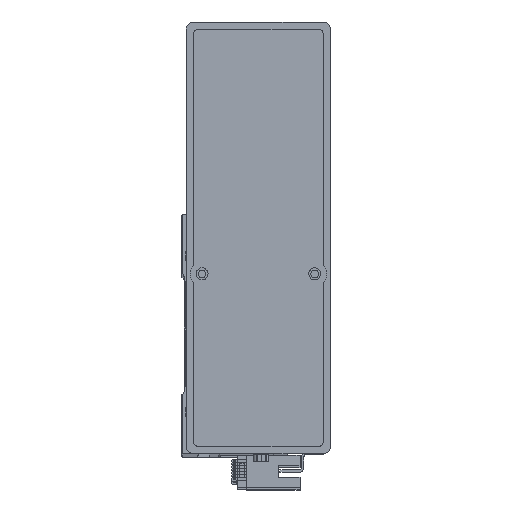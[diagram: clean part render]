
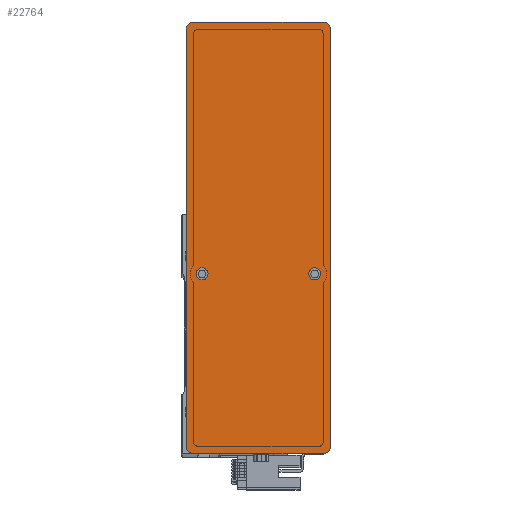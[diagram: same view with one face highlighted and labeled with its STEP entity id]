
A CAD part, top view. The second image highlights one B-rep face of the part: STEP entity #22764.
In plain terms, the highlighted planar face has unit normal (0, 0, 1) as drawn and (0, 0, -1) by its records, which use the part's own axes.
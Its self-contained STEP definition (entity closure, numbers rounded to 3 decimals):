
#24 = CARTESIAN_POINT ( 'NONE',  ( -90., -30., 0. ) ) ;
#186 = CARTESIAN_POINT ( 'NONE',  ( 87., -30., 0. ) ) ;
#935 = CARTESIAN_POINT ( 'NONE',  ( -15., -23.5, 0. ) ) ;
#988 = VECTOR ( 'NONE', #12997, 1000. ) ;
#1048 = VERTEX_POINT ( 'NONE', #7430 ) ;
#1494 = AXIS2_PLACEMENT_3D ( 'NONE', #935, #26318, #4554 ) ;
#1651 = EDGE_LOOP ( 'NONE', ( #38321, #25437 ) ) ;
#2079 = CIRCLE ( 'NONE', #8650, 3. ) ;
#3232 = VERTEX_POINT ( 'NONE', #30065 ) ;
#3661 = DIRECTION ( 'NONE',  ( 0., -1., 0. ) ) ;
#4140 = ORIENTED_EDGE ( 'NONE', *, *, #14459, .T. ) ;
#4554 = DIRECTION ( 'NONE',  ( -1., 0., 0. ) ) ;
#4740 = EDGE_CURVE ( 'NONE', #35232, #5352, #20351, .T. ) ;
#5243 = CARTESIAN_POINT ( 'NONE',  ( -87., 30., 0. ) ) ;
#5352 = VERTEX_POINT ( 'NONE', #37997 ) ;
#5826 = VERTEX_POINT ( 'NONE', #5243 ) ;
#6421 = ORIENTED_EDGE ( 'NONE', *, *, #4740, .F. ) ;
#6950 = AXIS2_PLACEMENT_3D ( 'NONE', #19739, #34721, #13109 ) ;
#7430 = CARTESIAN_POINT ( 'NONE',  ( -17.5, -23.5, 0. ) ) ;
#7522 = EDGE_LOOP ( 'NONE', ( #6421, #38053, #16698, #4140, #29932, #26814, #9822, #26038 ) ) ;
#7708 = FACE_BOUND ( 'NONE', #1651, .T. ) ;
#8650 = AXIS2_PLACEMENT_3D ( 'NONE', #21681, #46765, #25303 ) ;
#9822 = ORIENTED_EDGE ( 'NONE', *, *, #25087, .F. ) ;
#11628 = LINE ( 'NONE', #34910, #29731 ) ;
#12278 = DIRECTION ( 'NONE',  ( -1., 0., 0. ) ) ;
#12685 = EDGE_CURVE ( 'NONE', #38565, #27139, #22065, .T. ) ;
#12997 = DIRECTION ( 'NONE',  ( 0., 1., 0. ) ) ;
#13109 = DIRECTION ( 'NONE',  ( 1., 0., 0. ) ) ;
#13871 = DIRECTION ( 'NONE',  ( 0., 0., -1. ) ) ;
#14050 = AXIS2_PLACEMENT_3D ( 'NONE', #37588, #16080, #41243 ) ;
#14459 = EDGE_CURVE ( 'NONE', #36634, #3232, #46694, .T. ) ;
#14667 = AXIS2_PLACEMENT_3D ( 'NONE', #36332, #14773, #24708 ) ;
#14773 = DIRECTION ( 'NONE',  ( 0., 0., -1. ) ) ;
#15700 = EDGE_CURVE ( 'NONE', #28159, #3232, #25709, .T. ) ;
#15899 = CARTESIAN_POINT ( 'NONE',  ( 87., 30., 0. ) ) ;
#16080 = DIRECTION ( 'NONE',  ( 0., 0., -1. ) ) ;
#16698 = ORIENTED_EDGE ( 'NONE', *, *, #28212, .F. ) ;
#17821 = CIRCLE ( 'NONE', #14050, 3. ) ;
#17832 = CIRCLE ( 'NONE', #14667, 2.5 ) ;
#18443 = EDGE_CURVE ( 'NONE', #46655, #5352, #17821, .T. ) ;
#18759 = EDGE_CURVE ( 'NONE', #41567, #1048, #17832, .T. ) ;
#18915 = DIRECTION ( 'NONE',  ( 0., 0., -1. ) ) ;
#19522 = DIRECTION ( 'NONE',  ( 0., 0., -1. ) ) ;
#19739 = CARTESIAN_POINT ( 'NONE',  ( 0., 0., 0. ) ) ;
#20351 = LINE ( 'NONE', #34608, #988 ) ;
#20977 = EDGE_CURVE ( 'NONE', #35232, #31753, #2079, .T. ) ;
#21031 = CARTESIAN_POINT ( 'NONE',  ( -15., 23.5, 0. ) ) ;
#21551 = EDGE_CURVE ( 'NONE', #28159, #5826, #38948, .T. ) ;
#21681 = CARTESIAN_POINT ( 'NONE',  ( 87., -27., 0. ) ) ;
#21989 = AXIS2_PLACEMENT_3D ( 'NONE', #40472, #18915, #44062 ) ;
#22065 = CIRCLE ( 'NONE', #31777, 2.5 ) ;
#22764 = ADVANCED_FACE ( 'NONE', ( #7708, #26965, #36530 ), #31123, .F. ) ;
#24110 = ORIENTED_EDGE ( 'NONE', *, *, #18759, .F. ) ;
#24560 = VECTOR ( 'NONE', #3661, 1000. ) ;
#24624 = DIRECTION ( 'NONE',  ( -1., 0., 0. ) ) ;
#24708 = DIRECTION ( 'NONE',  ( -1., 0., 0. ) ) ;
#24780 = EDGE_LOOP ( 'NONE', ( #39416, #24110 ) ) ;
#25087 = EDGE_CURVE ( 'NONE', #46655, #5826, #39777, .T. ) ;
#25303 = DIRECTION ( 'NONE',  ( 1., 0., 0. ) ) ;
#25437 = ORIENTED_EDGE ( 'NONE', *, *, #12685, .F. ) ;
#25709 = LINE ( 'NONE', #24, #24560 ) ;
#26038 = ORIENTED_EDGE ( 'NONE', *, *, #18443, .T. ) ;
#26318 = DIRECTION ( 'NONE',  ( 0., 0., -1. ) ) ;
#26667 = CARTESIAN_POINT ( 'NONE',  ( 90., 30., 0. ) ) ;
#26814 = ORIENTED_EDGE ( 'NONE', *, *, #21551, .T. ) ;
#26965 = FACE_BOUND ( 'NONE', #24780, .T. ) ;
#27139 = VERTEX_POINT ( 'NONE', #42507 ) ;
#28159 = VERTEX_POINT ( 'NONE', #45373 ) ;
#28212 = EDGE_CURVE ( 'NONE', #36634, #31753, #11628, .T. ) ;
#29731 = VECTOR ( 'NONE', #31305, 1000. ) ;
#29932 = ORIENTED_EDGE ( 'NONE', *, *, #15700, .F. ) ;
#30065 = CARTESIAN_POINT ( 'NONE',  ( -90., -27., 0. ) ) ;
#30267 = VECTOR ( 'NONE', #12278, 1000. ) ;
#31062 = CIRCLE ( 'NONE', #1494, 2.5 ) ;
#31123 = PLANE ( 'NONE',  #6950 ) ;
#31305 = DIRECTION ( 'NONE',  ( 1., 0., 0. ) ) ;
#31753 = VERTEX_POINT ( 'NONE', #186 ) ;
#31777 = AXIS2_PLACEMENT_3D ( 'NONE', #21031, #46115, #24624 ) ;
#32132 = EDGE_CURVE ( 'NONE', #27139, #38565, #36926, .T. ) ;
#34608 = CARTESIAN_POINT ( 'NONE',  ( 90., -30., 0. ) ) ;
#34721 = DIRECTION ( 'NONE',  ( 0., 0., 1. ) ) ;
#34727 = AXIS2_PLACEMENT_3D ( 'NONE', #35452, #13871, #39039 ) ;
#34910 = CARTESIAN_POINT ( 'NONE',  ( 90., -30., 0. ) ) ;
#35232 = VERTEX_POINT ( 'NONE', #39748 ) ;
#35452 = CARTESIAN_POINT ( 'NONE',  ( -15., 23.5, 0. ) ) ;
#35926 = AXIS2_PLACEMENT_3D ( 'NONE', #41086, #19522, #44656 ) ;
#36332 = CARTESIAN_POINT ( 'NONE',  ( -15., -23.5, 0. ) ) ;
#36530 = FACE_OUTER_BOUND ( 'NONE', #7522, .T. ) ;
#36634 = VERTEX_POINT ( 'NONE', #43154 ) ;
#36926 = CIRCLE ( 'NONE', #34727, 2.5 ) ;
#37588 = CARTESIAN_POINT ( 'NONE',  ( 87., 27., 0. ) ) ;
#37997 = CARTESIAN_POINT ( 'NONE',  ( 90., 27., 0. ) ) ;
#38053 = ORIENTED_EDGE ( 'NONE', *, *, #20977, .T. ) ;
#38321 = ORIENTED_EDGE ( 'NONE', *, *, #32132, .F. ) ;
#38565 = VERTEX_POINT ( 'NONE', #38898 ) ;
#38898 = CARTESIAN_POINT ( 'NONE',  ( -12.5, 23.5, 0. ) ) ;
#38948 = CIRCLE ( 'NONE', #35926, 3. ) ;
#39039 = DIRECTION ( 'NONE',  ( -1., 0., 0. ) ) ;
#39416 = ORIENTED_EDGE ( 'NONE', *, *, #44044, .F. ) ;
#39748 = CARTESIAN_POINT ( 'NONE',  ( 90., -27., 0. ) ) ;
#39777 = LINE ( 'NONE', #26667, #30267 ) ;
#39970 = CARTESIAN_POINT ( 'NONE',  ( -12.5, -23.5, 0. ) ) ;
#40472 = CARTESIAN_POINT ( 'NONE',  ( -87., -27., 0. ) ) ;
#41086 = CARTESIAN_POINT ( 'NONE',  ( -87., 27., 0. ) ) ;
#41243 = DIRECTION ( 'NONE',  ( 1., 0., 0. ) ) ;
#41567 = VERTEX_POINT ( 'NONE', #39970 ) ;
#42507 = CARTESIAN_POINT ( 'NONE',  ( -17.5, 23.5, 0. ) ) ;
#43154 = CARTESIAN_POINT ( 'NONE',  ( -87., -30., 0. ) ) ;
#44044 = EDGE_CURVE ( 'NONE', #1048, #41567, #31062, .T. ) ;
#44062 = DIRECTION ( 'NONE',  ( 1., 0., 0. ) ) ;
#44656 = DIRECTION ( 'NONE',  ( 1., 0., 0. ) ) ;
#45373 = CARTESIAN_POINT ( 'NONE',  ( -90., 27., 0. ) ) ;
#46115 = DIRECTION ( 'NONE',  ( 0., 0., -1. ) ) ;
#46655 = VERTEX_POINT ( 'NONE', #15899 ) ;
#46694 = CIRCLE ( 'NONE', #21989, 3. ) ;
#46765 = DIRECTION ( 'NONE',  ( 0., 0., -1. ) ) ;
